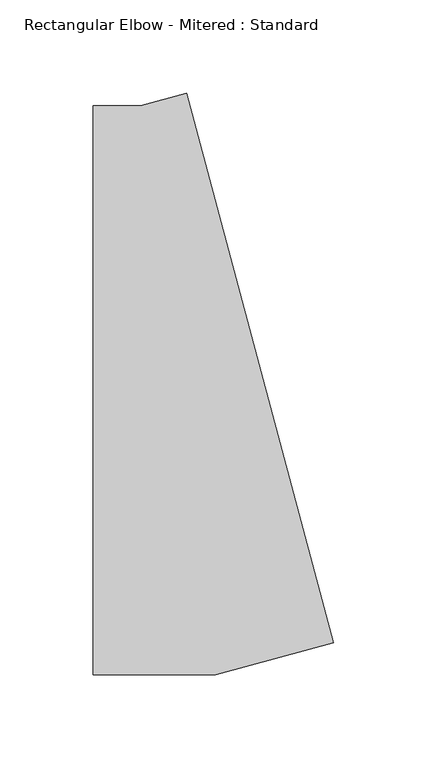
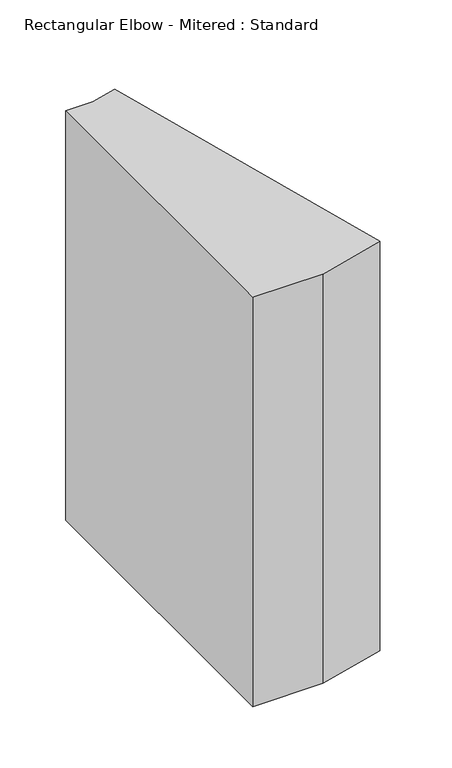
"""IFC4 building model written with IfcOpenShell, lengths in millimetres: duct fitting geometry, Rectangular Elbow - Mitered : Standard."""

from ifc_helpers import new_model, si_unit, frame, origin, place, context, project, spatial, polyline, outline, extrude, source, transform, mapped, element, save


def rectangular_elbow_mitered_standard_49461e77(model_context):
    return source(origin(), model_context, "Body", "SweptSolid", [
        extrude(outline(polyline([(-45.4638406, -152.4), (-45.4638406, 152.4), (-20.0638406, 152.4), (4.4706754, 158.9740037), (83.3587203, -135.4401881), (20.0638406, -152.4), (-45.4638406, -152.4)])), frame((0.0, 0.0, -203.2), z_axis=(0.0, 0.0, 1.0), x_axis=(1.0, 0.0, 0.0)), (0.0, 0.0, 1.0), 406.4),
    ])


if __name__ == "__main__":
    model = new_model("IFC4")
    model_context = context("Model", 3, world=origin())
    ifc_project = project(units=[si_unit("LENGTHUNIT", "METRE", prefix="MILLI")], contexts=[model_context])
    site = spatial("IfcSite", under=ifc_project)
    building = spatial("IfcBuilding", under=site)
    placement = place(None, origin())
    rectangular_elbow_mitered_standard_shape = rectangular_elbow_mitered_standard_49461e77(model_context)
    element("IfcDuctFitting", 1, ObjectType="Rectangular Elbow - Mitered : Standard", at=placement, inside=building, context=model_context, shape_type="MappedRepresentation", body=[
        mapped(rectangular_elbow_mitered_standard_shape, transform((0.0, 0.0, 0.0), x_axis=(1.0, 0.0, 0.0), y_axis=(0.0, 1.0, 0.0), z_axis=(0.0, 0.0, 1.0))),
    ])
    save(model, "model.ifc")
